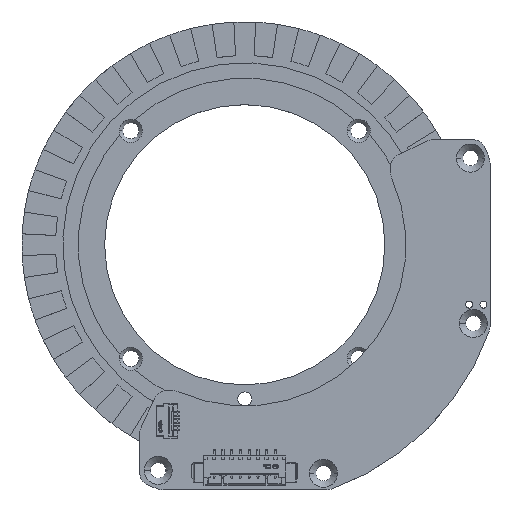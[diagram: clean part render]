
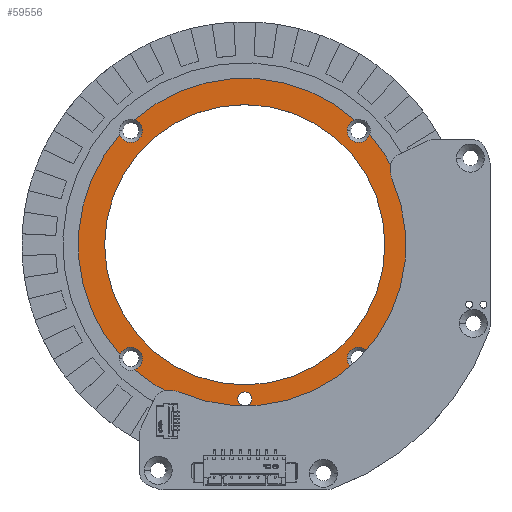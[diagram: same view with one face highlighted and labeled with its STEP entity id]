
A CAD part, top view. The second image highlights one B-rep face of the part: STEP entity #59556.
In plain terms, the highlighted planar face has unit normal (0, 0, 1) as drawn and (0, 1, 0) by its records, which use the part's own axes.
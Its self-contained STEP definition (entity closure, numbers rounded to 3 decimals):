
#56632=CARTESIAN_POINT('',(0.,1.,0.));
#56633=DIRECTION('',(0.,-1.,0.));
#56634=DIRECTION('',(1.,0.,0.));
#56635=AXIS2_PLACEMENT_3D('',#56632,#56633,#56634);
#56637=CARTESIAN_POINT('',(0.,1.,0.));
#56638=DIRECTION('',(0.,-1.,0.));
#56639=DIRECTION('',(-1.,0.,0.));
#56640=AXIS2_PLACEMENT_3D('',#56637,#56638,#56639);
#56898=CARTESIAN_POINT('',(0.,1.,-22.));
#56899=DIRECTION('',(0.,1.,0.));
#56900=DIRECTION('',(0.,0.,1.));
#56901=AXIS2_PLACEMENT_3D('',#56898,#56899,#56900);
#56903=CARTESIAN_POINT('',(0.,1.,-22.));
#56904=DIRECTION('',(0.,1.,0.));
#56905=DIRECTION('',(0.,0.,-1.));
#56906=AXIS2_PLACEMENT_3D('',#56903,#56904,#56905);
#56913=CARTESIAN_POINT('',(-16.263,1.,-16.263));
#56914=DIRECTION('',(0.,-1.,0.));
#56915=DIRECTION('',(1.,0.,0.));
#56916=AXIS2_PLACEMENT_3D('',#56913,#56914,#56915);
#56918=CARTESIAN_POINT('',(-16.263,1.,-16.263));
#56919=DIRECTION('',(0.,-1.,0.));
#56920=DIRECTION('',(0.322,0.,-0.947));
#56921=AXIS2_PLACEMENT_3D('',#56918,#56919,#56920);
#56923=CARTESIAN_POINT('',(16.263,1.,-16.263));
#56924=DIRECTION('',(0.,-1.,0.));
#56925=DIRECTION('',(-1.,0.,0.));
#56926=AXIS2_PLACEMENT_3D('',#56923,#56924,#56925);
#56928=CARTESIAN_POINT('',(16.263,1.,-16.263));
#56929=DIRECTION('',(0.,-1.,0.));
#56930=DIRECTION('',(0.947,0.,0.322));
#56931=AXIS2_PLACEMENT_3D('',#56928,#56929,#56930);
#56933=CARTESIAN_POINT('',(16.263,1.,16.263));
#56934=DIRECTION('',(0.,-1.,0.));
#56935=DIRECTION('',(-1.,0.,0.));
#56936=AXIS2_PLACEMENT_3D('',#56933,#56934,#56935);
#56938=CARTESIAN_POINT('',(16.263,1.,16.263));
#56939=DIRECTION('',(0.,-1.,0.));
#56940=DIRECTION('',(-0.322,0.,0.947));
#56941=AXIS2_PLACEMENT_3D('',#56938,#56939,#56940);
#56943=CARTESIAN_POINT('',(-16.263,1.,16.263));
#56944=DIRECTION('',(0.,-1.,0.));
#56945=DIRECTION('',(1.,0.,0.));
#56946=AXIS2_PLACEMENT_3D('',#56943,#56944,#56945);
#56948=CARTESIAN_POINT('',(-16.263,1.,16.263));
#56949=DIRECTION('',(0.,-1.,0.));
#56950=DIRECTION('',(-0.947,0.,-0.322));
#56951=AXIS2_PLACEMENT_3D('',#56948,#56949,#56950);
#58217=CARTESIAN_POINT('',(0.,1.,0.));
#58218=DIRECTION('',(0.,1.,0.));
#58219=DIRECTION('',(-0.75,0.,-0.662));
#58220=AXIS2_PLACEMENT_3D('',#58217,#58218,#58219);
#58276=CARTESIAN_POINT('',(0.,1.,0.));
#58277=DIRECTION('',(0.,1.,0.));
#58278=DIRECTION('',(-0.662,0.,0.75));
#58279=AXIS2_PLACEMENT_3D('',#58276,#58277,#58278);
#58325=CARTESIAN_POINT('',(0.,1.,0.));
#58326=DIRECTION('',(0.,1.,0.));
#58327=DIRECTION('',(0.75,0.,0.662));
#58328=AXIS2_PLACEMENT_3D('',#58325,#58326,#58327);
#58379=CARTESIAN_POINT('',(0.,1.,0.));
#58380=DIRECTION('',(0.,1.,0.));
#58381=DIRECTION('',(0.662,0.,-0.75));
#58382=AXIS2_PLACEMENT_3D('',#58379,#58380,#58381);
#58449=CARTESIAN_POINT('',(20.005,1.,0.));
#58450=CARTESIAN_POINT('',(-20.005,1.,0.));
#58451=VERTEX_POINT('',#58449);
#58452=VERTEX_POINT('',#58450);
#59001=CARTESIAN_POINT('',(-14.613,1.,
-16.263));
#59002=VERTEX_POINT('',#59001);
#59003=CARTESIAN_POINT('',(14.613,1.,
-16.263));
#59004=VERTEX_POINT('',#59003);
#59005=CARTESIAN_POINT('',(14.613,1.,
16.263));
#59006=VERTEX_POINT('',#59005);
#59007=CARTESIAN_POINT('',(-14.613,1.,
16.263));
#59008=VERTEX_POINT('',#59007);
#59013=CARTESIAN_POINT('',(0.,1.,-21.));
#59014=CARTESIAN_POINT('',(0.,1.,-23.));
#59015=VERTEX_POINT('',#59013);
#59016=VERTEX_POINT('',#59014);
#59033=CARTESIAN_POINT('',(-17.826,1.,15.732));
#59035=VERTEX_POINT('',#59033);
#59037=CARTESIAN_POINT('',(-15.732,1.,17.826));
#59038=VERTEX_POINT('',#59037);
#59039=CARTESIAN_POINT('',(-15.732,1.,-17.826));
#59041=VERTEX_POINT('',#59039);
#59043=CARTESIAN_POINT('',(-17.826,1.,-15.732));
#59044=VERTEX_POINT('',#59043);
#59045=CARTESIAN_POINT('',(17.826,1.,-15.732));
#59047=VERTEX_POINT('',#59045);
#59049=CARTESIAN_POINT('',(15.732,1.,-17.826));
#59050=VERTEX_POINT('',#59049);
#59051=CARTESIAN_POINT('',(15.732,1.,17.826));
#59053=VERTEX_POINT('',#59051);
#59055=CARTESIAN_POINT('',(17.826,1.,15.732));
#59056=VERTEX_POINT('',#59055);
#59513=CARTESIAN_POINT('',(0.,1.,0.));
#59514=DIRECTION('',(0.,1.,0.));
#59515=DIRECTION('',(0.025,0.,-1.));
#59516=AXIS2_PLACEMENT_3D('',#59513,#59514,#59515);
#59517=PLANE('',#59516);
#59519=ORIENTED_EDGE('',*,*,#59518,.F.);
#59521=ORIENTED_EDGE('',*,*,#59520,.F.);
#59523=ORIENTED_EDGE('',*,*,#59522,.F.);
#59525=ORIENTED_EDGE('',*,*,#59524,.F.);
#59527=ORIENTED_EDGE('',*,*,#59526,.F.);
#59529=ORIENTED_EDGE('',*,*,#59528,.F.);
#59531=ORIENTED_EDGE('',*,*,#59530,.F.);
#59533=ORIENTED_EDGE('',*,*,#59532,.F.);
#59535=ORIENTED_EDGE('',*,*,#59534,.F.);
#59537=ORIENTED_EDGE('',*,*,#59536,.F.);
#59539=ORIENTED_EDGE('',*,*,#59538,.F.);
#59541=ORIENTED_EDGE('',*,*,#59540,.F.);
#59542=EDGE_LOOP('',(#59519,#59521,#59523,#59525,#59527,#59529,#59531,#59533,
#59535,#59537,#59539,#59541));
#59543=FACE_OUTER_BOUND('',#59542,.F.);
#59545=ORIENTED_EDGE('',*,*,#59544,.F.);
#59547=ORIENTED_EDGE('',*,*,#59546,.F.);
#59548=EDGE_LOOP('',(#59545,#59547));
#59549=FACE_BOUND('',#59548,.F.);
#59551=ORIENTED_EDGE('',*,*,#59550,.T.);
#59553=ORIENTED_EDGE('',*,*,#59552,.T.);
#59554=EDGE_LOOP('',(#59551,#59553));
#59555=FACE_BOUND('',#59554,.F.);
#59556=ADVANCED_FACE('',(#59543,#59549,#59555),#59517,.T.);
#56636=CIRCLE('',#56635,20.005);
#56641=CIRCLE('',#56640,20.005);
#56902=CIRCLE('',#56901,1.);
#56907=CIRCLE('',#56906,1.);
#56917=CIRCLE('',#56916,1.65);
#56922=CIRCLE('',#56921,1.65);
#56927=CIRCLE('',#56926,1.65);
#56932=CIRCLE('',#56931,1.65);
#56937=CIRCLE('',#56936,1.65);
#56942=CIRCLE('',#56941,1.65);
#56947=CIRCLE('',#56946,1.65);
#56952=CIRCLE('',#56951,1.65);
#58221=CIRCLE('',#58220,23.775);
#58280=CIRCLE('',#58279,23.775);
#58329=CIRCLE('',#58328,23.775);
#58383=CIRCLE('',#58382,23.775);
#59518=EDGE_CURVE('',#59044,#59035,#58221,.T.);
#59520=EDGE_CURVE('',#59002,#59044,#56917,.T.);
#59522=EDGE_CURVE('',#59041,#59002,#56922,.T.);
#59524=EDGE_CURVE('',#59050,#59041,#58383,.T.);
#59526=EDGE_CURVE('',#59004,#59050,#56927,.T.);
#59528=EDGE_CURVE('',#59047,#59004,#56932,.T.);
#59530=EDGE_CURVE('',#59056,#59047,#58329,.T.);
#59532=EDGE_CURVE('',#59006,#59056,#56937,.T.);
#59534=EDGE_CURVE('',#59053,#59006,#56942,.T.);
#59536=EDGE_CURVE('',#59038,#59053,#58280,.T.);
#59538=EDGE_CURVE('',#59008,#59038,#56947,.T.);
#59540=EDGE_CURVE('',#59035,#59008,#56952,.T.);
#59544=EDGE_CURVE('',#58451,#58452,#56636,.T.);
#59546=EDGE_CURVE('',#58452,#58451,#56641,.T.);
#59550=EDGE_CURVE('',#59015,#59016,#56902,.T.);
#59552=EDGE_CURVE('',#59016,#59015,#56907,.T.);
